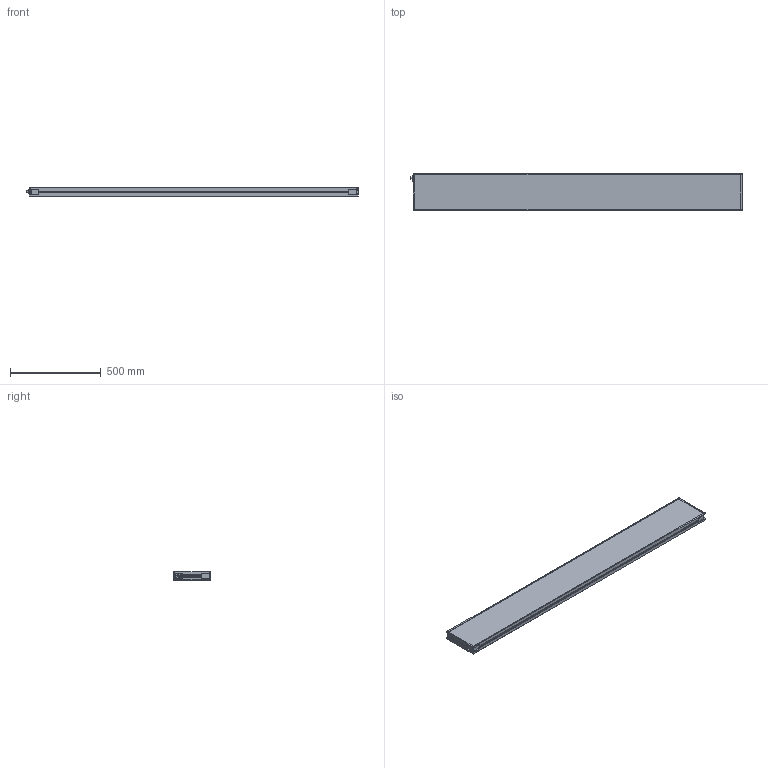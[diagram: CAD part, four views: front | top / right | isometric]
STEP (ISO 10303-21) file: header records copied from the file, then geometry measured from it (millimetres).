
FILE_DESCRIPTION (( 'STEP AP214' ), '1' );
FILE_NAME ('MBACK-xxxx-xxx-M1_CLIENT200x1800.STEP', '2022-03-31T15:58:13', ( '' ), ( '' ), 'SwSTEP 2.0', 'SolidWorks 2020', '' );
FILE_SCHEMA (( 'AUTOMOTIVE_DESIGN' ));
Length unit declared in the file: millimetre
Products named in the file (1): MBACK-xxxx-xxx-M1_CLIENT200x1800
Bounding box: 1825.9 x 208 x 45.5 mm (x, y, z)
Volume: 15576092.1 mm3; surface area: 1019916.2 mm2
Topology: 1 solids, 1 shells, 442 faces, 1144 edges, 760 vertices
Faces by surface type: plane 249, cylinder 105, bspline 80, cone 8
Entity records: 17236 total; most frequent: CARTESIAN_POINT 6699, ORIENTED_EDGE 2288, DIRECTION 1936, EDGE_CURVE 1144, VERTEX_POINT 760, VECTOR 758, LINE 758, AXIS2_PLACEMENT_3D 589
